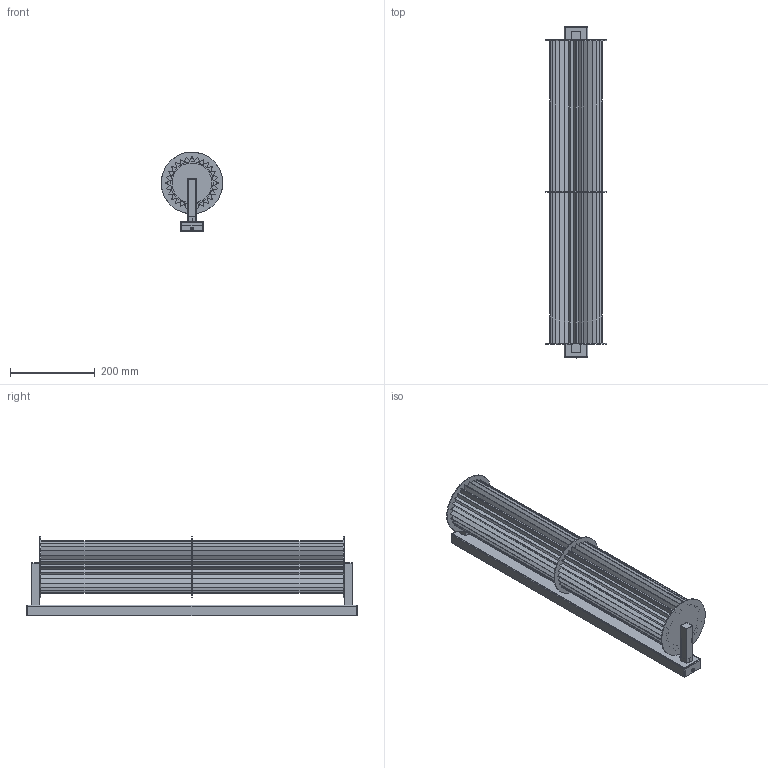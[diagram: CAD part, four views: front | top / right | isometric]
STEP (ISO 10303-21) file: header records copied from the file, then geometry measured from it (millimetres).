
FILE_DESCRIPTION (( 'STEP AP203' ), '1' );
FILE_NAME ('ORI_OR.W072.14_Aplic doble (FORMA).STEP', '2025-07-08T07:54:09', ( '' ), ( '' ), 'SwSTEP 2.0', 'SolidWorks 2013', '' );
FILE_SCHEMA (( 'CONFIG_CONTROL_DESIGN' ));
Length unit declared in the file: millimetre
Products named in the file (9): TP477_Pantalla plisada ORI (24 plecs); GI469-Travesser 772x50; GI470-Tub 20x20x100; TC178-Tub PMMA Ø100x3_L712mm; ORI_OR.W072.14_Aplic doble (FORMA); AG019_M4x8; GI463-Disc Ø145x2_pas 10; GI464-Disc Ø145x2_pas 101; GI467-Caixa 55x777x25
Assembly tree (12 placements, depth 2):
  ORI_OR.W072.14_Aplic doble (FORMA)
    GI467-Caixa 55x777x25
    GI469-Travesser 772x50
    AG019_M4x8  x2
    GI470-Tub 20x20x100  x2
    GI463-Disc Ø145x2_pas 10  x2
    TC178-Tub PMMA Ø100x3_L712mm
    GI464-Disc Ø145x2_pas 101
    TP477_Pantalla plisada ORI (24 plecs)  x2
Bounding box: 145 x 781.5 x 187.5 mm (x, y, z)
Volume: 1103432.2 mm3; surface area: 1697647.4 mm2
Topology: 16 solids, 16 shells, 691 faces, 1902 edges, 1240 vertices
Faces by surface type: plane 411, cylinder 264, sphere 8, cone 4, torus 4
Entity records: 14355 total; most frequent: DIRECTION 2346, CARTESIAN_POINT 2339, ORIENTED_EDGE 2264, EDGE_CURVE 1132, LINE 784, VECTOR 784, AXIS2_PLACEMENT_3D 781, VERTEX_POINT 734
